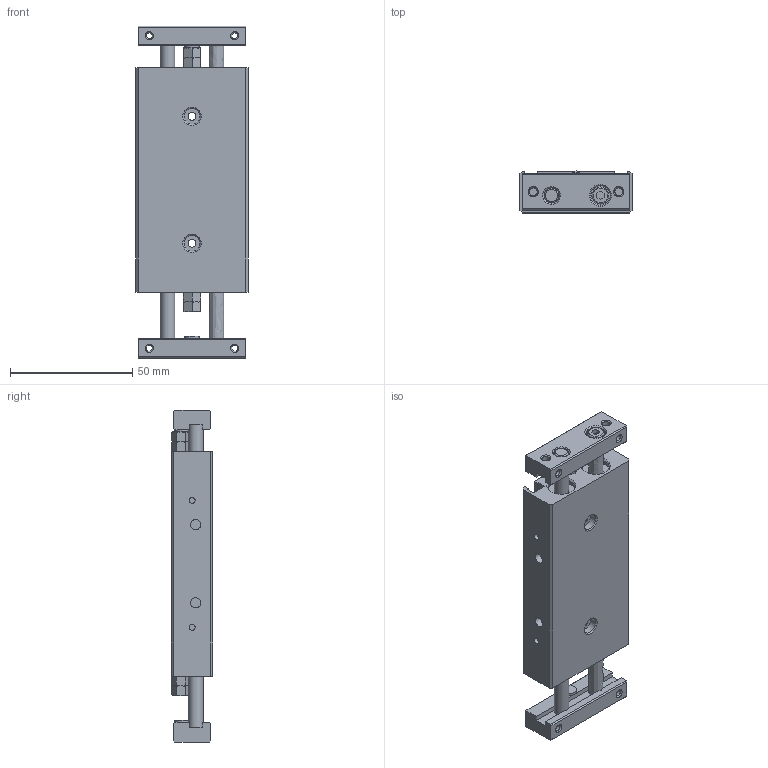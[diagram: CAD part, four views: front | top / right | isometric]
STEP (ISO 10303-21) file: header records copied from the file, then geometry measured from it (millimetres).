
FILE_DESCRIPTION((''),'2;1');
FILE_NAME('I:\3D電子目錄\氣缸\STX\STX\STX10\STX10x10.stp','2007-10-01T16:47:43',('Administrator'),(''),'Autodesk Inventor 11','Autodesk Inventor 11','');
FILE_SCHEMA(('AUTOMOTIVE_DESIGN { 1 0 10303 214 1 1 1 1 }'));
Length unit declared in the file: millimetre
Products named in the file (1): STX10
Bounding box: 46 x 17.04 x 136 mm (x, y, z)
Volume: 75239.2 mm3; surface area: 24021.9 mm2
Topology: 1 solids, 1 shells, 269 faces, 644 edges, 400 vertices
Faces by surface type: plane 135, cone 72, bspline 36, cylinder 22, torus 4
Full cylindrical faces by diameter (mm): 2.459 x2, 4.134 x2, 6 x6, 6.2 x2, 6.5 x2, 7 x2, 8 x2, 11 x2, 12 x2
Entity records: 7637 total; most frequent: CARTESIAN_POINT 2109, ORIENTED_EDGE 1082, DIRECTION 1076, EDGE_CURVE 541, AXIS2_PLACEMENT_3D 405, EDGE_LOOP 399, VERTEX_POINT 374, FACE_OUTER_BOUND 269
